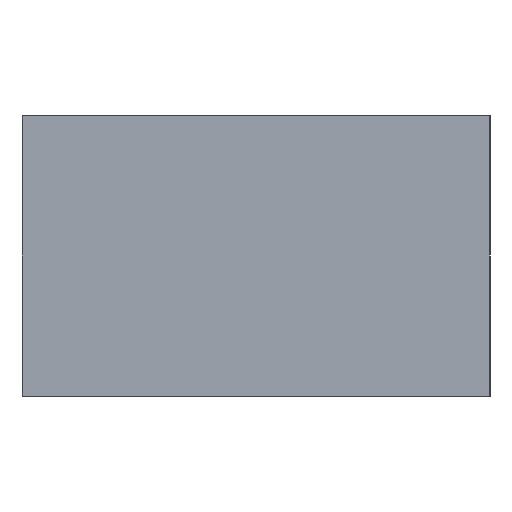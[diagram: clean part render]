
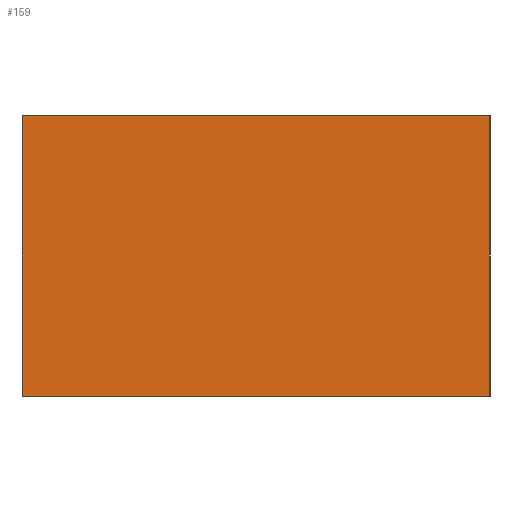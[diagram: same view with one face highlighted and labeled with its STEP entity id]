
A CAD part, left-side view. The second image highlights one B-rep face of the part: STEP entity #159.
In plain terms, the highlighted planar face has unit normal (-1, 0, 0).
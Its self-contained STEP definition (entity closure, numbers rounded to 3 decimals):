
#12 = CARTESIAN_POINT ( 'NONE',  ( 0., 0., 0. ) ) ;
#14 = EDGE_CURVE ( 'NONE', #254, #325, #88, .T. ) ;
#35 = CARTESIAN_POINT ( 'NONE',  ( 0., 0., 15. ) ) ;
#53 = VERTEX_POINT ( 'NONE', #349 ) ;
#88 = LINE ( 'NONE', #256, #251 ) ;
#99 = EDGE_CURVE ( 'NONE', #254, #115, #342, .T. ) ;
#100 = DIRECTION ( 'NONE',  ( 0., 0., -1. ) ) ;
#108 = VECTOR ( 'NONE', #270, 1000. ) ;
#109 = ORIENTED_EDGE ( 'NONE', *, *, #99, .F. ) ;
#115 = VERTEX_POINT ( 'NONE', #289 ) ;
#142 = AXIS2_PLACEMENT_3D ( 'NONE', #166, #169, #100 ) ;
#146 = LINE ( 'NONE', #12, #182 ) ;
#159 = ADVANCED_FACE ( 'NONE', ( #207 ), #294, .F. ) ;
#166 = CARTESIAN_POINT ( 'NONE',  ( 0., 0., 15. ) ) ;
#169 = DIRECTION ( 'NONE',  ( 1., 0., 0. ) ) ;
#177 = ORIENTED_EDGE ( 'NONE', *, *, #259, .F. ) ;
#182 = VECTOR ( 'NONE', #298, 1000. ) ;
#207 = FACE_OUTER_BOUND ( 'NONE', #258, .T. ) ;
#241 = ORIENTED_EDGE ( 'NONE', *, *, #14, .T. ) ;
#251 = VECTOR ( 'NONE', #314, 1000. ) ;
#254 = VERTEX_POINT ( 'NONE', #368 ) ;
#256 = CARTESIAN_POINT ( 'NONE',  ( 0., 25., 15. ) ) ;
#258 = EDGE_LOOP ( 'NONE', ( #279, #177, #109, #241 ) ) ;
#259 = EDGE_CURVE ( 'NONE', #115, #53, #384, .T. ) ;
#270 = DIRECTION ( 'NONE',  ( 0., 0., -1. ) ) ;
#275 = EDGE_CURVE ( 'NONE', #325, #53, #146, .T. ) ;
#279 = ORIENTED_EDGE ( 'NONE', *, *, #275, .T. ) ;
#289 = CARTESIAN_POINT ( 'NONE',  ( 0., 0., 15. ) ) ;
#294 = PLANE ( 'NONE',  #142 ) ;
#298 = DIRECTION ( 'NONE',  ( 0., -1., 0. ) ) ;
#314 = DIRECTION ( 'NONE',  ( 0., 0., -1. ) ) ;
#325 = VERTEX_POINT ( 'NONE', #367 ) ;
#342 = LINE ( 'NONE', #35, #386 ) ;
#349 = CARTESIAN_POINT ( 'NONE',  ( 0., 0., 0. ) ) ;
#359 = DIRECTION ( 'NONE',  ( 0., -1., 0. ) ) ;
#366 = CARTESIAN_POINT ( 'NONE',  ( 0., 0., 15. ) ) ;
#367 = CARTESIAN_POINT ( 'NONE',  ( 0., 25., 0. ) ) ;
#368 = CARTESIAN_POINT ( 'NONE',  ( 0., 25., 15. ) ) ;
#384 = LINE ( 'NONE', #366, #108 ) ;
#386 = VECTOR ( 'NONE', #359, 1000. ) ;
